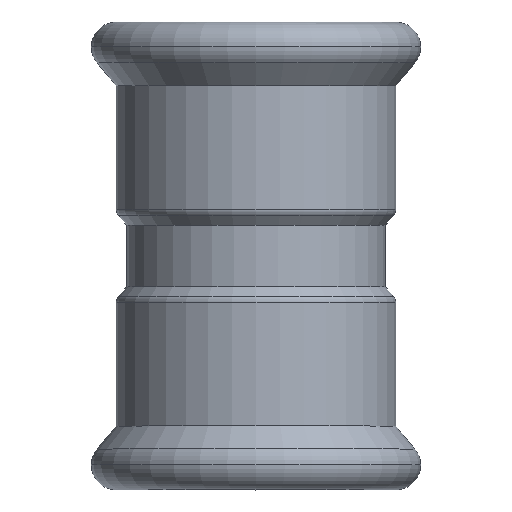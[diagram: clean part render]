
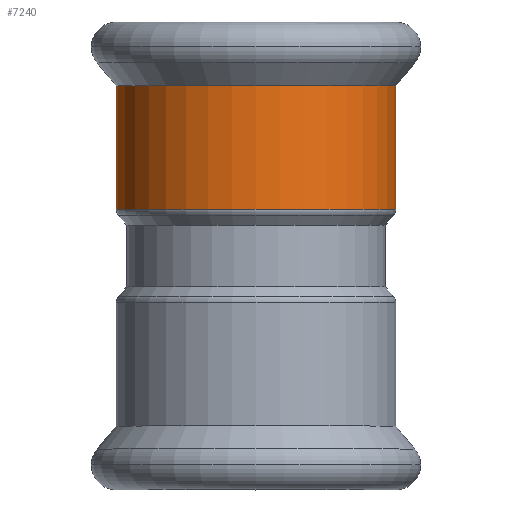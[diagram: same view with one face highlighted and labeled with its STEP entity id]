
A CAD part, top view. The second image highlights one B-rep face of the part: STEP entity #7240.
In plain terms, the highlighted cylindrical face has radius 22.7 mm (diameter 45.4 mm), a partial arc.
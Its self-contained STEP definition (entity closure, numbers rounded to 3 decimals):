
#3960=CARTESIAN_POINT('',(-72.854,164.472,0.));
#3970=VERTEX_POINT('',#3960);
#4150=CARTESIAN_POINT('',(-27.454,164.472,
0.));
#4160=VERTEX_POINT('',#4150);
#4190=CARTESIAN_POINT('',(-50.154,164.472,0.));
#4200=DIRECTION('',(0.,-1.,0.));
#4210=DIRECTION('',(1.,0.,0.));
#4220=AXIS2_PLACEMENT_3D('',#4190,#4200,#4210);
#4230=CIRCLE('',#4220,22.7);
#5090=CARTESIAN_POINT('',(-50.154,174.875,0.));
#5100=DIRECTION('',(0.,1.,0.));
#5110=DIRECTION('',(1.,0.,0.));
#5120=AXIS2_PLACEMENT_3D('',#5090,#5100,#5110);
#5130=CYLINDRICAL_SURFACE('',#5120,22.7);
#5140=CARTESIAN_POINT('',(-72.854,174.875,
0.));
#5150=DIRECTION('',(0.,1.,0.));
#5160=VECTOR('',#5150,1.);
#5170=LINE('',#5140,#5160);
#5180=CARTESIAN_POINT('',(-72.854,184.559,0.));
#5190=VERTEX_POINT('',#5180);
#5200=EDGE_CURVE('',#3970,#5190,#5170,.T.);
#5230=CARTESIAN_POINT('',(-27.454,174.875,0.));
#5240=DIRECTION('',(0.,1.,0.));
#5250=VECTOR('',#5240,1.);
#5260=LINE('',#5230,#5250);
#5270=CARTESIAN_POINT('',(-27.454,184.559,0.));
#5280=VERTEX_POINT('',#5270);
#5290=EDGE_CURVE('',#4160,#5280,#5260,.T.);
#5310=CARTESIAN_POINT('',(-50.154,184.559,0.));
#5320=DIRECTION('',(0.,1.,0.));
#5330=DIRECTION('',(1.,0.,0.));
#5340=AXIS2_PLACEMENT_3D('',#5310,#5320,#5330);
#5350=CIRCLE('',#5340,22.7);
#7160=EDGE_CURVE('',#4160,#3970,#4230,.T.);
#7170=ORIENTED_EDGE('',*,*,#7160,.F.);
#7180=ORIENTED_EDGE('',*,*,#5200,.F.);
#7190=EDGE_CURVE('',#5190,#5280,#5350,.T.);
#7200=ORIENTED_EDGE('',*,*,#7190,.F.);
#7210=ORIENTED_EDGE('',*,*,#5290,.T.);
#7220=EDGE_LOOP('',(#7210,#7200,#7180,#7170));
#7230=FACE_OUTER_BOUND('',#7220,.T.);
#7240=ADVANCED_FACE('',(#7230),#5130,.T.);
